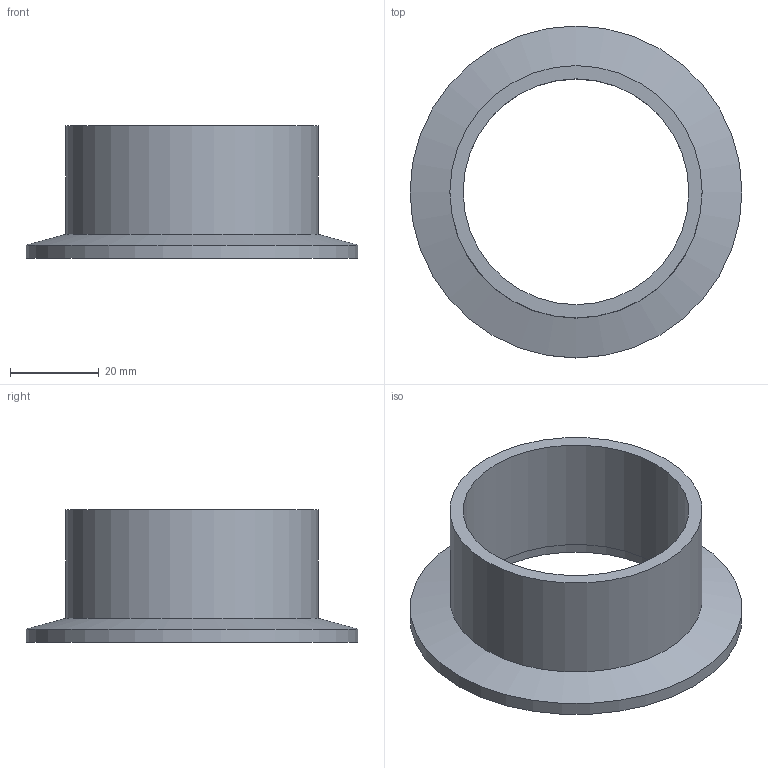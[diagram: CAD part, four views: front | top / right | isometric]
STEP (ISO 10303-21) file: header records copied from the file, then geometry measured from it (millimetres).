
FILE_DESCRIPTION( ( 'Unknown' ), '1' );
FILE_NAME( 'X:/Daten ( aktueller Bestand )/Projekte und Zeichnungen/Solid Edge/STP-Dateien/KF/1527-34.stp', 'Unknown', ( 'Unknown' ), ( 'Unknown' ), 'PSStep 14.0', 'Unknown', ' ' );
FILE_SCHEMA( ( 'AUTOMOTIVE_DESIGN { 1 0 10303 214 1 1 1 1 }' ) );
Length unit declared in the file: millimetre
Products named in the file (1): 1
Bounding box: 75 x 75 x 30 mm (x, y, z)
Volume: 22771.1 mm3; surface area: 14741.9 mm2
Topology: 1 solids, 1 shells, 8 faces, 13 edges, 8 vertices
Faces by surface type: cylinder 4, plane 3, cone 1
Full cylindrical faces by diameter (mm): 51 x1, 52.2 x1, 57 x1, 75 x1
Entity records: 248 total; most frequent: DIRECTION 34, CARTESIAN_POINT 25, AXIS2_PLACEMENT_3D 17, EDGE_LOOP 16, ORIENTED_EDGE 16, FACE_OUTER_BOUND 12, STYLED_ITEM 8, PRESENTATION_STYLE_ASSIGNMENT 8
